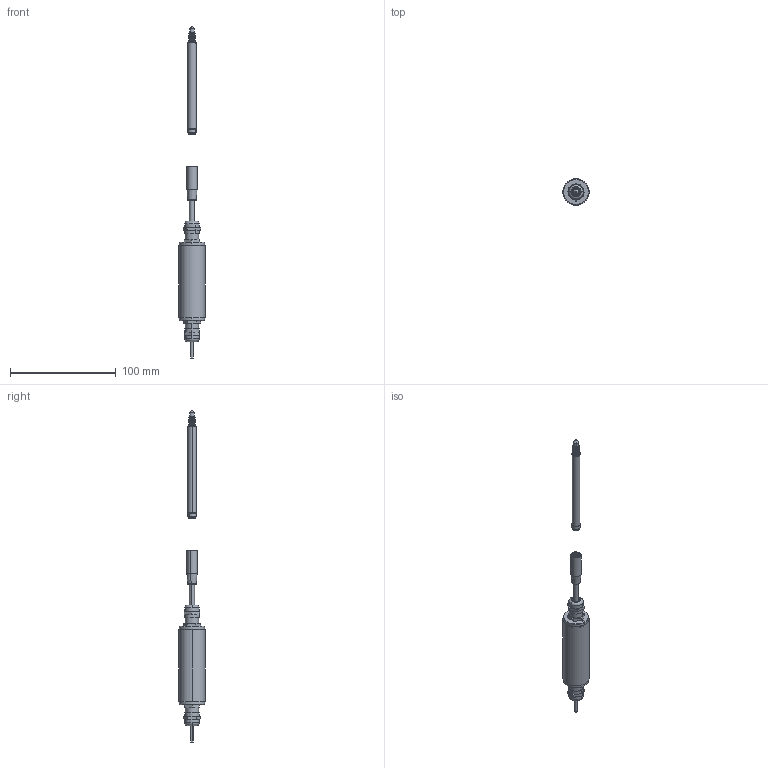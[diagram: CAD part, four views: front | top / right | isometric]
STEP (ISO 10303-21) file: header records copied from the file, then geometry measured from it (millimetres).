
FILE_DESCRIPTION(('STEP AP203'),'1');
FILE_NAME('C:/TPO v2/SharedFS/Outgoing/burster_8739-5002-v501_e8fb5gzjw5ogtwexvjychc6yj.stp','2013-08-27T14:25:41',('TraceParts'),('TraceParts S.A.'),'XStep 1.0',' ',' ');
FILE_SCHEMA(('CONFIG_CONTROL_DESIGN'));
Length unit declared in the file: millimetre
Products named in the file (4): 1; 2; 3; 4
Bounding box: 25 x 25 x 314.5 mm (x, y, z)
Volume: 23227.2 mm3; surface area: 22835.4 mm2
Topology: 4 solids, 7 shells, 591 faces, 1455 edges, 918 vertices
Faces by surface type: cylinder 179, plane 156, cone 144, torus 102, sphere 10
Entity records: 17823 total; most frequent: DIRECTION 3385, CARTESIAN_POINT 3198, ORIENTED_EDGE 2882, EDGE_CURVE 1441, AXIS2_PLACEMENT_3D 1431, VERTEX_POINT 918, CIRCLE 834, EDGE_LOOP 655
